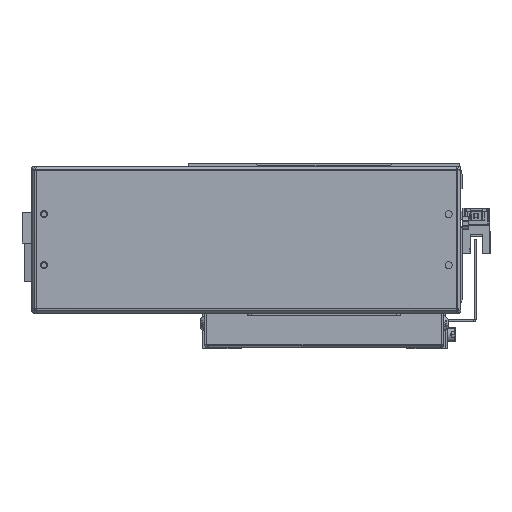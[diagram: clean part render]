
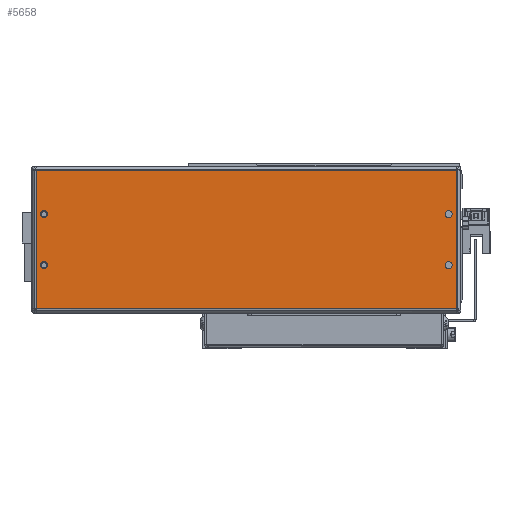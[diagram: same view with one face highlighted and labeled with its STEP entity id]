
A CAD part, front view. The second image highlights one B-rep face of the part: STEP entity #5658.
In plain terms, the highlighted planar face has unit normal (0, -1, 0) as drawn and (0, 0, 1) by its records, which use the part's own axes.
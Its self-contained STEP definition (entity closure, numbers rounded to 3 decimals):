
#520 = DIRECTION ( 'NONE',  ( 0., 0., -1. ) ) ;
#641 = DIRECTION ( 'NONE',  ( 1., 0., 0. ) ) ;
#749 = CIRCLE ( 'NONE', #32445, 1.75 ) ;
#752 = CIRCLE ( 'NONE', #4300, 1.75 ) ;
#760 = VERTEX_POINT ( 'NONE', #14449 ) ;
#917 = CIRCLE ( 'NONE', #4203, 1.75 ) ;
#1112 = EDGE_CURVE ( 'NONE', #23024, #13601, #36066, .T. ) ;
#1178 = EDGE_LOOP ( 'NONE', ( #19422, #3054 ) ) ;
#1323 = EDGE_CURVE ( 'NONE', #24744, #18103, #752, .T. ) ;
#1488 = CIRCLE ( 'NONE', #36905, 1.75 ) ;
#1631 = CARTESIAN_POINT ( 'NONE',  ( -55.646, -7.14, 312. ) ) ;
#1962 = DIRECTION ( 'NONE',  ( 0., 0., -1. ) ) ;
#2307 = CARTESIAN_POINT ( 'NONE',  ( 140.604, -7.14, 312. ) ) ;
#2904 = CARTESIAN_POINT ( 'NONE',  ( 140.604, 17.86, 312. ) ) ;
#3012 = VECTOR ( 'NONE', #16335, 1000. ) ;
#3054 = ORIENTED_EDGE ( 'NONE', *, *, #22515, .T. ) ;
#3655 = EDGE_CURVE ( 'NONE', #17339, #5668, #36063, .T. ) ;
#3660 = AXIS2_PLACEMENT_3D ( 'NONE', #34928, #29201, #11634 ) ;
#3998 = EDGE_CURVE ( 'NONE', #760, #4808, #749, .T. ) ;
#4137 = CARTESIAN_POINT ( 'NONE',  ( -61.16, 3.4, 312. ) ) ;
#4203 = AXIS2_PLACEMENT_3D ( 'NONE', #11424, #14102, #37528 ) ;
#4216 = CARTESIAN_POINT ( 'NONE',  ( -34.746, 3.4, 312. ) ) ;
#4300 = AXIS2_PLACEMENT_3D ( 'NONE', #22186, #1962, #28233 ) ;
#4724 = CARTESIAN_POINT ( 'NONE',  ( -34.746, 39.124, 312. ) ) ;
#4808 = VERTEX_POINT ( 'NONE', #7565 ) ;
#5658 = ADVANCED_FACE ( 'NONE', ( #19831, #13499, #29359, #25249, #9905 ), #12900, .T. ) ;
#5668 = VERTEX_POINT ( 'NONE', #18366 ) ;
#6606 = ORIENTED_EDGE ( 'NONE', *, *, #33569, .T. ) ;
#7067 = DIRECTION ( 'NONE',  ( 0., -1., 0. ) ) ;
#7071 = DIRECTION ( 'NONE',  ( 0., 0., -1. ) ) ;
#7565 = CARTESIAN_POINT ( 'NONE',  ( 142.354, 17.86, 312. ) ) ;
#7762 = CARTESIAN_POINT ( 'NONE',  ( 144.367, -28.403, 312. ) ) ;
#7980 = DIRECTION ( 'NONE',  ( 1., 0., 0. ) ) ;
#8388 = VECTOR ( 'NONE', #27583, 1000. ) ;
#9905 = FACE_BOUND ( 'NONE', #25444, .T. ) ;
#10277 = CARTESIAN_POINT ( 'NONE',  ( 140.604, 17.86, 312. ) ) ;
#10834 = VERTEX_POINT ( 'NONE', #28551 ) ;
#11026 = CARTESIAN_POINT ( 'NONE',  ( -55.646, 17.86, 312. ) ) ;
#11352 = VERTEX_POINT ( 'NONE', #7762 ) ;
#11424 = CARTESIAN_POINT ( 'NONE',  ( 140.604, -7.14, 312. ) ) ;
#11473 = VECTOR ( 'NONE', #7067, 1000. ) ;
#11482 = DIRECTION ( 'NONE',  ( 1., 0., 0. ) ) ;
#11634 = DIRECTION ( 'NONE',  ( 1., 0., 0. ) ) ;
#11868 = CARTESIAN_POINT ( 'NONE',  ( -57.396, 17.86, 312. ) ) ;
#12189 = AXIS2_PLACEMENT_3D ( 'NONE', #10277, #27980, #26566 ) ;
#12536 = DIRECTION ( 'NONE',  ( 1., 0., 0. ) ) ;
#12900 = PLANE ( 'NONE',  #22245 ) ;
#13174 = CARTESIAN_POINT ( 'NONE',  ( 144.367, 39.124, 312. ) ) ;
#13499 = FACE_BOUND ( 'NONE', #30259, .T. ) ;
#13601 = VERTEX_POINT ( 'NONE', #35612 ) ;
#14102 = DIRECTION ( 'NONE',  ( 0., 0., -1. ) ) ;
#14440 = EDGE_CURVE ( 'NONE', #4808, #760, #34879, .T. ) ;
#14449 = CARTESIAN_POINT ( 'NONE',  ( 138.854, 17.86, 312. ) ) ;
#14477 = VECTOR ( 'NONE', #36632, 1000. ) ;
#14594 = CIRCLE ( 'NONE', #20893, 1.75 ) ;
#14876 = DIRECTION ( 'NONE',  ( 1., 0., 0. ) ) ;
#14889 = EDGE_CURVE ( 'NONE', #10834, #18023, #917, .T. ) ;
#15426 = ORIENTED_EDGE ( 'NONE', *, *, #1112, .T. ) ;
#16335 = DIRECTION ( 'NONE',  ( -1., 0., 0. ) ) ;
#16415 = DIRECTION ( 'NONE',  ( 0., 0., -1. ) ) ;
#17339 = VERTEX_POINT ( 'NONE', #13174 ) ;
#18023 = VERTEX_POINT ( 'NONE', #24083 ) ;
#18103 = VERTEX_POINT ( 'NONE', #1631 ) ;
#18366 = CARTESIAN_POINT ( 'NONE',  ( -61.16, 39.124, 312. ) ) ;
#18468 = CARTESIAN_POINT ( 'NONE',  ( 144.367, 3.4, 312. ) ) ;
#19407 = ORIENTED_EDGE ( 'NONE', *, *, #32246, .T. ) ;
#19422 = ORIENTED_EDGE ( 'NONE', *, *, #14889, .T. ) ;
#19448 = EDGE_LOOP ( 'NONE', ( #22596, #19407, #31899, #21401 ) ) ;
#19831 = FACE_OUTER_BOUND ( 'NONE', #19448, .T. ) ;
#20893 = AXIS2_PLACEMENT_3D ( 'NONE', #2307, #16415, #7980 ) ;
#20898 = ORIENTED_EDGE ( 'NONE', *, *, #3998, .T. ) ;
#21401 = ORIENTED_EDGE ( 'NONE', *, *, #24355, .T. ) ;
#21688 = DIRECTION ( 'NONE',  ( 0., 0., 1. ) ) ;
#21750 = CARTESIAN_POINT ( 'NONE',  ( -59.146, -7.14, 312. ) ) ;
#22186 = CARTESIAN_POINT ( 'NONE',  ( -57.396, -7.14, 312. ) ) ;
#22245 = AXIS2_PLACEMENT_3D ( 'NONE', #4216, #21688, #12536 ) ;
#22515 = EDGE_CURVE ( 'NONE', #18023, #10834, #14594, .T. ) ;
#22596 = ORIENTED_EDGE ( 'NONE', *, *, #3655, .T. ) ;
#22845 = VERTEX_POINT ( 'NONE', #27612 ) ;
#23014 = CARTESIAN_POINT ( 'NONE',  ( -57.396, 17.86, 312. ) ) ;
#23024 = VERTEX_POINT ( 'NONE', #11026 ) ;
#24083 = CARTESIAN_POINT ( 'NONE',  ( 138.854, -7.14, 312. ) ) ;
#24355 = EDGE_CURVE ( 'NONE', #11352, #17339, #33514, .T. ) ;
#24436 = ORIENTED_EDGE ( 'NONE', *, *, #1323, .T. ) ;
#24744 = VERTEX_POINT ( 'NONE', #21750 ) ;
#25045 = LINE ( 'NONE', #27828, #8388 ) ;
#25249 = FACE_BOUND ( 'NONE', #33597, .T. ) ;
#25444 = EDGE_LOOP ( 'NONE', ( #15426, #33211 ) ) ;
#26566 = DIRECTION ( 'NONE',  ( 1., 0., 0. ) ) ;
#27583 = DIRECTION ( 'NONE',  ( 1., 0., 0. ) ) ;
#27612 = CARTESIAN_POINT ( 'NONE',  ( -61.16, -28.403, 312. ) ) ;
#27828 = CARTESIAN_POINT ( 'NONE',  ( -34.746, -28.403, 312. ) ) ;
#27980 = DIRECTION ( 'NONE',  ( 0., 0., -1. ) ) ;
#28233 = DIRECTION ( 'NONE',  ( 1., 0., 0. ) ) ;
#28245 = ORIENTED_EDGE ( 'NONE', *, *, #14440, .T. ) ;
#28551 = CARTESIAN_POINT ( 'NONE',  ( 142.354, -7.14, 312. ) ) ;
#28835 = DIRECTION ( 'NONE',  ( 0., 0., -1. ) ) ;
#29201 = DIRECTION ( 'NONE',  ( 0., 0., -1. ) ) ;
#29359 = FACE_BOUND ( 'NONE', #1178, .T. ) ;
#30259 = EDGE_LOOP ( 'NONE', ( #28245, #20898 ) ) ;
#31899 = ORIENTED_EDGE ( 'NONE', *, *, #35404, .T. ) ;
#32246 = EDGE_CURVE ( 'NONE', #5668, #22845, #34171, .T. ) ;
#32445 = AXIS2_PLACEMENT_3D ( 'NONE', #2904, #520, #14876 ) ;
#32804 = EDGE_CURVE ( 'NONE', #13601, #23024, #1488, .T. ) ;
#33211 = ORIENTED_EDGE ( 'NONE', *, *, #32804, .T. ) ;
#33514 = LINE ( 'NONE', #18468, #14477 ) ;
#33569 = EDGE_CURVE ( 'NONE', #18103, #24744, #36828, .T. ) ;
#33597 = EDGE_LOOP ( 'NONE', ( #6606, #24436 ) ) ;
#33884 = AXIS2_PLACEMENT_3D ( 'NONE', #23014, #28835, #11482 ) ;
#34171 = LINE ( 'NONE', #4137, #11473 ) ;
#34879 = CIRCLE ( 'NONE', #12189, 1.75 ) ;
#34928 = CARTESIAN_POINT ( 'NONE',  ( -57.396, -7.14, 312. ) ) ;
#35404 = EDGE_CURVE ( 'NONE', #22845, #11352, #25045, .T. ) ;
#35612 = CARTESIAN_POINT ( 'NONE',  ( -59.146, 17.86, 312. ) ) ;
#36063 = LINE ( 'NONE', #4724, #3012 ) ;
#36066 = CIRCLE ( 'NONE', #33884, 1.75 ) ;
#36632 = DIRECTION ( 'NONE',  ( 0., 1., 0. ) ) ;
#36828 = CIRCLE ( 'NONE', #3660, 1.75 ) ;
#36905 = AXIS2_PLACEMENT_3D ( 'NONE', #11868, #7071, #641 ) ;
#37528 = DIRECTION ( 'NONE',  ( 1., 0., 0. ) ) ;
